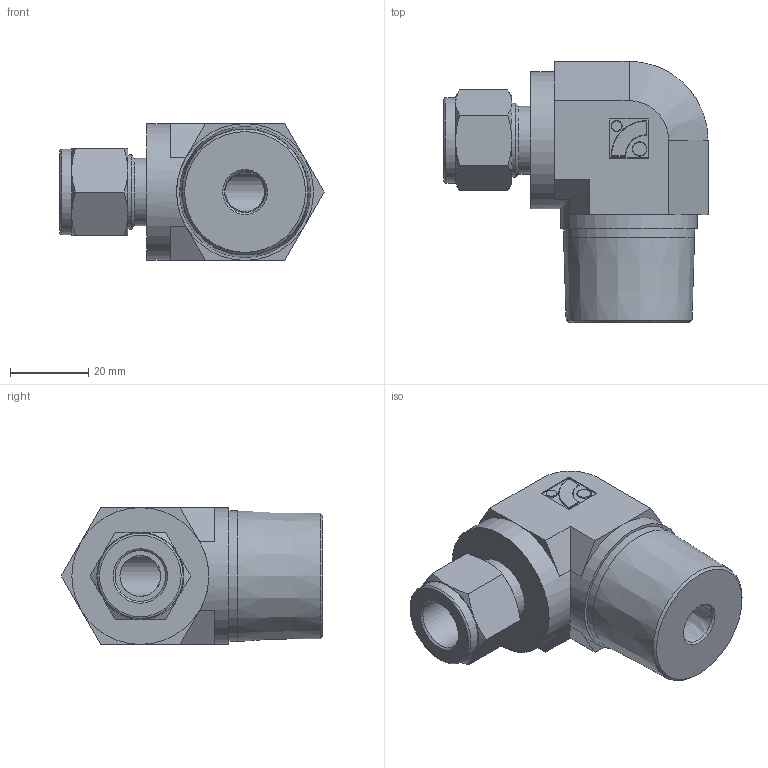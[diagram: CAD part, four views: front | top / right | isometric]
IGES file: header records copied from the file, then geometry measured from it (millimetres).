
Global section: file name: No Iges File Name specified; native system: Autodesk Inventor 2012; preprocessor: AutoDesk Inventor Iges Exporter R2012; author: 硅己绕,, ; organization: 11; date: 20150703.114306; units: millimetre
Bounding box: 67.35 x 66.65 x 34.9 mm (x, y, z)
Volume: 67084.1 mm3; surface area: 14762.1 mm2
Topology: 1 solids, 1 shells, 120 faces, 270 edges, 158 vertices
Faces by surface type: plane 43, revolution 28, cylinder 19, cone 17, torus 9, sphere 4
Full cylindrical faces by diameter (mm): 2.7 x1, 3.6 x1, 17.3 x1, 18.9 x1, 21.8 x1, 33.4 x1, 34.9 x2
